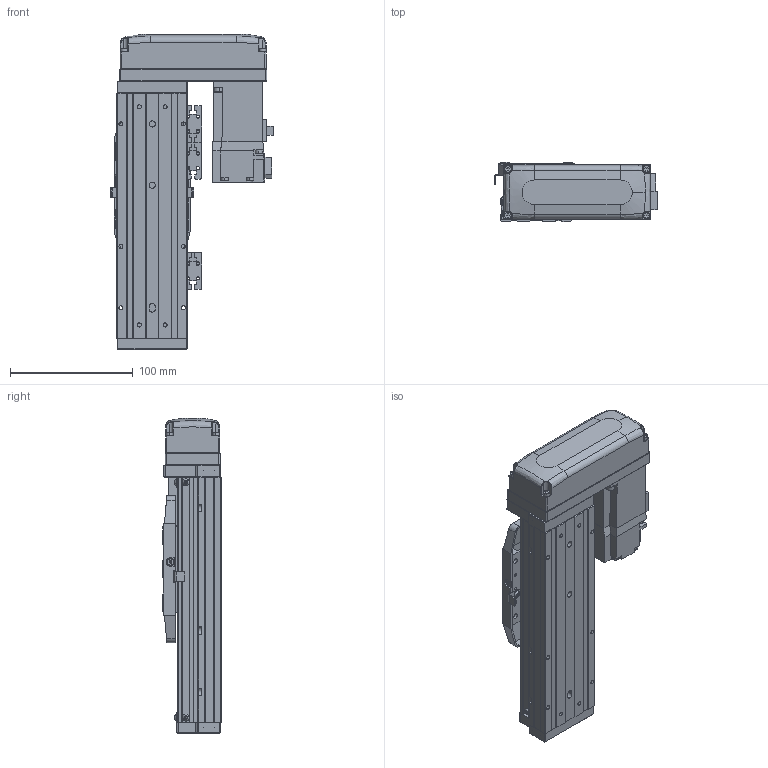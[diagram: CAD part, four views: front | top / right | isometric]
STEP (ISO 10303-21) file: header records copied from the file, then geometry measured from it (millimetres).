
FILE_DESCRIPTION (( 'STEP AP203' ), '1' );
FILE_NAME ('CTHA50-50-BL-M10-C4L.step', '2022-03-19T06:00:03', ( '微软用户' ), ( '微软中国' ), 'SwSTEP 2.0', 'SolidWorks 2020', '' );
FILE_SCHEMA (( 'CONFIG_CONTROL_DESIGN' ));
Length unit declared in the file: millimetre
Products named in the file (20): GBT77-2000 M3×3; CTHA50-002; CTHA50-50-BL-M10-C4L; GBT 70.1-M3℅6; CTHA50-030; KTHA50-001_200; CTHA60-017; CTHA50-031; KTHA50-004; GBT 70.1-M4×12; GBT 70.3-M3℅6; KTHA50-005; CTHA60-016; CTHA50-015-2_CTHA60-015-2; GB¨uT 70.2-M3¡Á6_M3¡Á6; CTHA60-021; CTHA60-033; EE_SX911P_R; HG-KR13（三菱）; GBT 70.1-M3×15
Assembly tree (60 placements, depth 2):
  CTHA50-50-BL-M10-C4L
    KTHA50-001_200
    KTHA50-004
    KTHA50-005
    GB¨uT 70.2-M3¡Á6_M3¡Á6  x10
    EE_SX911P_R  x3
    GBT77-2000 M3×3  x6
    GBT 70.1-M3℅6  x6
    CTHA60-017  x3
    GBT 70.1-M4×12  x10
    CTHA60-016  x2
    CTHA60-021  x2
    HG-KR13（三菱）
    CTHA50-002
    CTHA50-030  x2
    CTHA50-031
    GBT 70.3-M3℅6  x4
    CTHA50-015-2_CTHA60-015-2
    CTHA60-033
    GBT 70.1-M3×15  x4
Bounding box: 132.6 x 48 x 257 mm (x, y, z)
Volume: 727120.3 mm3; surface area: 194214.7 mm2
Topology: 62 solids, 62 shells, 2453 faces, 5799 edges, 3546 vertices
Faces by surface type: plane 1386, cylinder 564, cone 345, torus 108, bspline 26, sphere 24
Entity records: 40747 total; most frequent: CARTESIAN_POINT 7547, DIRECTION 6315, ORIENTED_EDGE 6106, EDGE_CURVE 3053, VECTOR 2127, LINE 2127, AXIS2_PLACEMENT_3D 2094, VERTEX_POINT 1920
